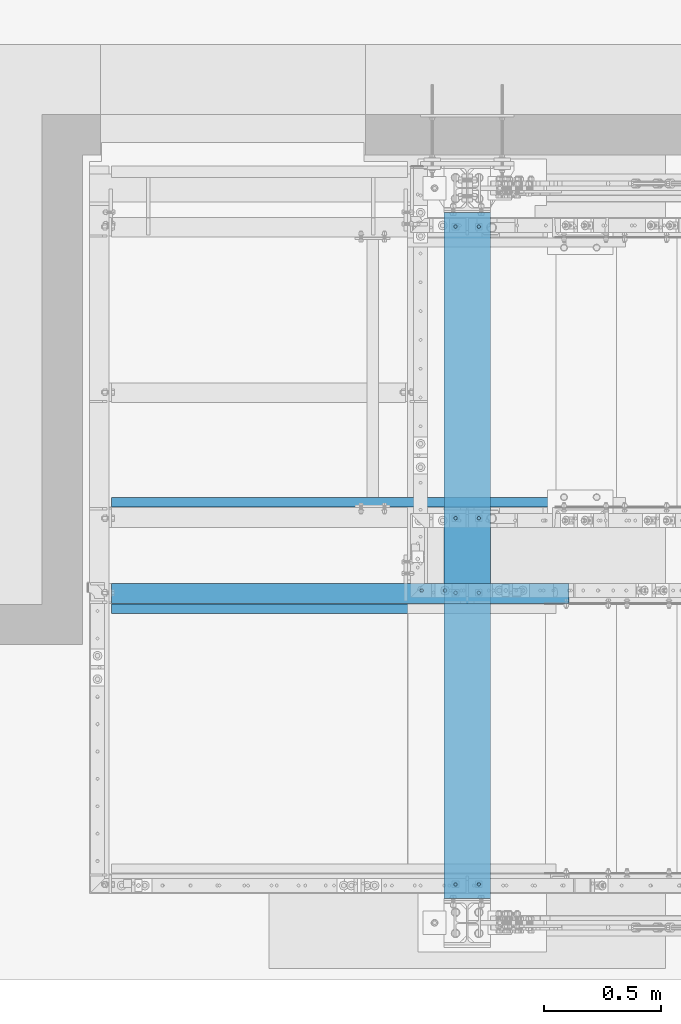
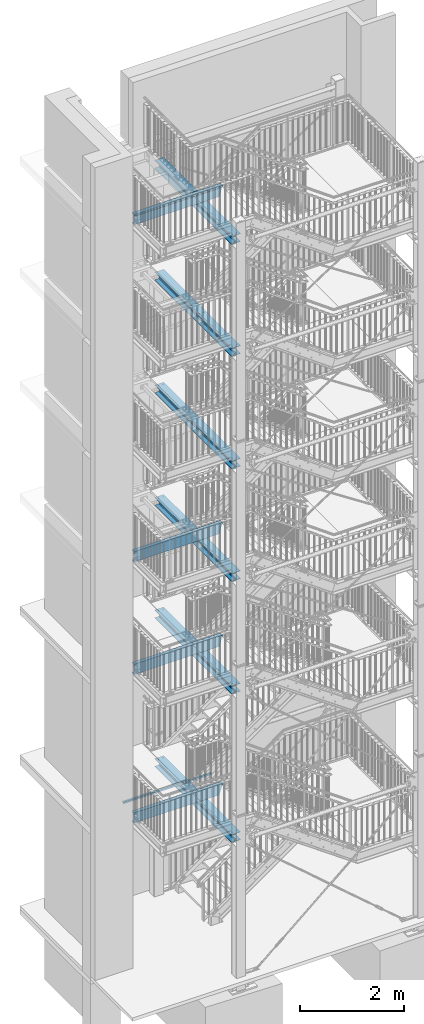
# One storey, part 116 of 825: 12 beams, 60 openings.
"""IFC2X3 building model written with IfcOpenShell, lengths in millimetres."""

import ifcopenshell
import ifcopenshell.guid

model = None  # the IFC model being written
_history = None  # IfcOwnerHistory: only IFC2X3 demands one
_inside = {}  # id of a spatial element -> (the spatial element, [elements in it])
_under = {}  # id of a project, library or spatial element -> (it, [spatial elements below it])
_declared = {}  # id of a project -> (the project, [libraries it declares])
_typed = {}  # id of a type object -> (the type object, [elements of that type])
_made_of = {}  # id of a material, layer set ... -> (it, [elements and type objects made of it])


def new_model(schema):
    """Start an empty IFC model of exactly this schema.

    Asked for "IFC4X3", IfcOpenShell would pick the latest addendum, in which some entities
    have other attributes; the version numbers below select the first issue.
    IFC2X3 requires an IfcOwnerHistory on every rooted entity: one is made here for all.
    """
    global model, _history
    if schema == "IFC4X3":
        model = ifcopenshell.file(schema_version=(4, 3, 0, 0))
    else:
        model = ifcopenshell.file(schema=schema)
    _inside.clear()
    _under.clear()
    _declared.clear()
    _typed.clear()
    _made_of.clear()
    _history = None
    if model.schema == "IFC2X3":
        org = make("IfcOrganization", Name="unknown")
        user = make(
            "IfcPersonAndOrganization",
            ThePerson=make("IfcPerson", FamilyName="unknown"),
            TheOrganization=org,
        )
        app = make(
            "IfcApplication",
            ApplicationDeveloper=org,
            Version="unknown",
            ApplicationFullName="unknown",
            ApplicationIdentifier="unknown",
        )
        _history = make(
            "IfcOwnerHistory",
            OwningUser=user,
            OwningApplication=app,
            ChangeAction="ADDED",
            CreationDate=0,
        )
    return model


def make(cls, **values):
    """One entity of the class cls with the attributes given. An attribute that is None is left unset."""
    return model.create_entity(
        cls, **{name: value for name, value in values.items() if value is not None}
    )


def entity(cls, *values):
    """Any entity or typed value of the class cls, its attributes in the order of the schema. None: left unset."""
    e = model.create_entity(cls)
    for i, value in enumerate(values):
        if value is not None:
            e[i] = value
    return e


def rooted(cls, **values):
    """An entity with a GlobalId (a new one), such as an element, a storey or a relation."""
    return make(cls, GlobalId=ifcopenshell.guid.new(), OwnerHistory=_history, **values)


def si_unit(unit_type, name, prefix=None):
    """IfcSIUnit, for example si_unit("LENGTHUNIT", "METRE", prefix="MILLI")."""
    return make("IfcSIUnit", UnitType=unit_type, Prefix=prefix, Name=name)


def converted_unit(unit_type, name, factor, base, dimensions=None, offset=None):
    """IfcConversionBasedUnit, such as the inch: factor (a typed value) times the base unit."""
    return make(
        "IfcConversionBasedUnit"
        if offset is None
        else "IfcConversionBasedUnitWithOffset",
        ConversionOffset=offset,
        Dimensions=None
        if dimensions is None
        else entity("IfcDimensionalExponents", *dimensions),
        UnitType=unit_type,
        Name=name,
        ConversionFactor=make(
            "IfcMeasureWithUnit", ValueComponent=factor, UnitComponent=base
        ),
    )


def assignment(units):
    """IfcUnitAssignment: the units of a project."""
    return None if units is None else make("IfcUnitAssignment", Units=units)


def point(xyz):
    """IfcCartesianPoint."""
    return None if xyz is None else make("IfcCartesianPoint", Coordinates=xyz)


def direction(xyz):
    """IfcDirection."""
    return None if xyz is None else make("IfcDirection", DirectionRatios=xyz)


def frame(location, z_axis=None, x_axis=None):
    """IfcAxis2Placement3D, a coordinate frame: its origin and axes. An axis left out is left unset."""
    return make(
        "IfcAxis2Placement3D",
        Location=point(location),
        Axis=direction(z_axis),
        RefDirection=direction(x_axis),
    )


def frame_2d(location, x_axis=None):
    """IfcAxis2Placement2D, a coordinate frame in the plane: its origin and x axis."""
    return make(
        "IfcAxis2Placement2D", Location=point(location), RefDirection=direction(x_axis)
    )


def origin():
    """The frame at (0, 0, 0) with its axes left unset."""
    return frame((0.0, 0.0, 0.0))


def origin_with_axes():
    """The frame at (0, 0, 0) with the z axis (0, 0, 1) and the x axis (1, 0, 0) written out."""
    return frame((0.0, 0.0, 0.0), z_axis=(0.0, 0.0, 1.0), x_axis=(1.0, 0.0, 0.0))


def origin_2d():
    """The frame at (0, 0) in the plane with its x axis left unset."""
    return frame_2d((0.0, 0.0))


def origin_2d_with_axis():
    """The frame at (0, 0) in the plane with the x axis (1, 0) written out."""
    return frame_2d((0.0, 0.0), x_axis=(1.0, 0.0))


def place(relative_to, where):
    """IfcLocalPlacement: puts the frame where relative to a parent placement (None: the world)."""
    return make(
        "IfcLocalPlacement", PlacementRelTo=relative_to, RelativePlacement=where
    )


def context(
    kind, dimensions, precision=None, world=None, true_north=None, identifier=None
):
    """IfcGeometricRepresentationContext, for example the 3D "Model" context."""
    return make(
        "IfcGeometricRepresentationContext",
        ContextIdentifier=identifier,
        ContextType=kind,
        CoordinateSpaceDimension=dimensions,
        Precision=precision,
        WorldCoordinateSystem=world,
        TrueNorth=true_north,
    )


def project(units=None, contexts=None):
    """IfcProject with its units and contexts."""
    return rooted(
        "IfcProject",
        Name="project",
        RepresentationContexts=contexts,
        UnitsInContext=assignment(units),
    )


def spatial(cls, under=None, at=None, **own):
    """A site, building, storey or space (cls), placed at a placement, below another one or the project."""
    s = rooted(cls, ObjectPlacement=at, **own)
    if under is not None:
        _under.setdefault(under.id(), (under, []))[1].append(s)
    return s


def profile(cls, at=None, kind="AREA", **sizes):
    """A parametric profile (cls). Its sizes go by their IFC names, for example OverallWidth=200.0."""
    return make(cls, ProfileType=kind, Position=at, **sizes)


def circle(**sizes):
    """IfcCircleProfileDef."""
    return profile("IfcCircleProfileDef", **sizes)


def i_section(**sizes):
    """IfcIShapeProfileDef."""
    return profile("IfcIShapeProfileDef", **sizes)


def l_section(**sizes):
    """IfcLShapeProfileDef."""
    return profile("IfcLShapeProfileDef", **sizes)


def u_section(**sizes):
    """IfcUShapeProfileDef."""
    return profile("IfcUShapeProfileDef", **sizes)


def extrude(swept, where, along, depth):
    """IfcExtrudedAreaSolid: the profile swept, set in the frame where, extruded along a direction by depth."""
    return make(
        "IfcExtrudedAreaSolid",
        SweptArea=swept,
        Position=where,
        ExtrudedDirection=direction(along),
        Depth=depth,
    )


def clip(a, b, op="DIFFERENCE"):
    """IfcBooleanClippingResult: the solid a cut by the half space b."""
    return make(
        "IfcBooleanClippingResult", Operator=op, FirstOperand=a, SecondOperand=b
    )


def halfspace(plane, agree):
    """IfcHalfSpaceSolid: all space on one side of the plane z = 0 of the frame plane."""
    return make(
        "IfcHalfSpaceSolid",
        BaseSurface=make("IfcPlane", Position=plane),
        AgreementFlag=agree,
    )


def shape(context_of_items, identifier, shape_type, items):
    """IfcShapeRepresentation: the items that make up one representation, for example the "Body"."""
    return make(
        "IfcShapeRepresentation",
        ContextOfItems=context_of_items,
        RepresentationIdentifier=identifier,
        RepresentationType=shape_type,
        Items=items,
    )


def material(Name=None, Category=None):
    """IfcMaterial."""
    return make("IfcMaterial", Name=Name, Category=Category)


def made_of(thing, what):
    """Note that an element or type object is made of a material, layer set ...; save() writes the relation."""
    if what is not None:
        _made_of.setdefault(what.id(), (what, []))[1].append(thing)
    return thing


def element(
    cls,
    number,
    at=None,
    inside=None,
    cuts=None,
    type_object=None,
    material=None,
    context=None,
    identifier="Body",
    shape_type=None,
    held_by="IfcProductDefinitionShape",
    body=None,
    shapes=None,
    **own,
):
    """One element of the class cls, such as IfcWall. Its Tag is "e" and its number.

    at: its placement. inside: the storey or other place that contains it. cuts: it is an
    opening in that element (IfcRelVoidsElement). A single representation is given by context,
    identifier, shape_type and body (its items); several are given by shapes. held_by: the class
    of the entity that holds the representations. save() writes the other relations.
    """
    e = rooted(cls, Tag="e%d" % number, ObjectPlacement=at, **own)
    if body is not None:
        shapes = [shape(context, identifier, shape_type, body)]
    if shapes is not None:
        e.Representation = make(held_by, Representations=shapes)
    if inside is not None:
        _inside.setdefault(inside.id(), (inside, []))[1].append(e)
    if cuts is not None:
        rooted(
            "IfcRelVoidsElement", RelatingBuildingElement=cuts, RelatedOpeningElement=e
        )
    if type_object is not None:
        _typed.setdefault(type_object.id(), (type_object, []))[1].append(e)
    return made_of(e, material)


def aggregate(whole, parts):
    """IfcRelAggregates: a whole, such as a stair, and the parts it consists of."""
    return rooted("IfcRelAggregates", RelatingObject=whole, RelatedObjects=parts)


def save(model, path):
    """Write the relations noted so far, then the file.

    IfcRelAggregates (storeys below a building ...), IfcRelContainedInSpatialStructure (elements
    in a storey), IfcRelDefinesByType, IfcRelAssociatesMaterial and IfcRelDeclares: one each for
    every whole, place, type object, material and project.
    """
    for whole, parts in _under.values():
        aggregate(whole, parts)
    for where, things in _inside.values():
        rooted(
            "IfcRelContainedInSpatialStructure",
            RelatedElements=things,
            RelatingStructure=where,
        )
    for kind, things in _typed.values():
        rooted("IfcRelDefinesByType", RelatedObjects=things, RelatingType=kind)
    for what, things in _made_of.values():
        rooted("IfcRelAssociatesMaterial", RelatedObjects=things, RelatingMaterial=what)
    for by, libraries in _declared.values():
        rooted("IfcRelDeclares", RelatingContext=by, RelatedDefinitions=libraries)
    model.write(path)


model = new_model("IFC2X3")

# Units and contexts
model_context = context("Model", 3, precision=1e-09, world=origin_with_axes())
ifc_project = project(units=[si_unit("LENGTHUNIT", "METRE", prefix="MILLI"), si_unit("AREAUNIT", "SQUARE_METRE"), si_unit("VOLUMEUNIT", "CUBIC_METRE"), converted_unit("PLANEANGLEUNIT", "DEGREE", entity("IfcPlaneAngleMeasure", 0.01745329), si_unit("PLANEANGLEUNIT", "RADIAN"), dimensions=[0, 0, 0, 0, 0, 0, 0])], contexts=[model_context])

# Site, building, storey
site_placement = place(None, origin_with_axes())
site = spatial("IfcSite", under=ifc_project, at=site_placement, Name="Cnopf'sche Kinderklinik", CompositionType="ELEMENT")
building_placement = place(site_placement, origin_with_axes())
building = spatial("IfcBuilding", under=site, at=building_placement, Name="Struktur 1", CompositionType="ELEMENT")
storey_placement = place(building_placement, origin_with_axes())
storey = spatial("IfcBuildingStorey", under=building, at=storey_placement, Name="Default Storey", CompositionType="ELEMENT", Elevation=0.0)

# Beam, openings
ifc_material = material(Name="S235JR")
beam_1_placement = place(None, frame((5552.129694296, 5759.036971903, 17713.999999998), z_axis=(1.0, 0.0, 0.0), x_axis=(0.0, 1.0, 0.0)))
beam_1 = element("IfcBeam", 1, at=beam_1_placement, inside=storey, material=ifc_material, Name="Stringer", ObjectType="Stringer", context=model_context, shape_type="Clipping", body=[
    clip(clip(extrude(u_section(Depth=240.0, FlangeWidth=85.0, WebThickness=9.5, FlangeThickness=13.0, FilletRadius=13.0, EdgeRadius=6.5, FlangeSlope=4.574, at=frame_2d((20.2, 0.0))), origin(), (0.0, 0.0, -1.0), 2477.720061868), halfspace(frame((-5759.036971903, -17713.999999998, -2220.415291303), z_axis=(0.0, 0.0, 1.0), x_axis=(1.0, 0.0, 0.0)), True)), halfspace(frame((-5759.036971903, -17580.048532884, -5967.525639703), z_axis=(0.0, 0.306904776, -0.951740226), x_axis=(-1.0, 0.0, 0.0)), True)),
])
opening_1_placement = place(beam_1_placement, frame((32.7, 120.5, -550.914791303), z_axis=(0.0, 1.0, 0.0), x_axis=(-1.0, 0.0, 0.0)))
element("IfcOpeningElement", 2, at=opening_1_placement, cuts=beam_1, ObjectType="Opening", context=model_context, shape_type="SweptSolid", body=[
    extrude(circle(Radius=7.001, at=frame_2d((0.0, -7.001), x_axis=(1.0, 0.0))), origin(), (0.0, 0.0, -1.0), 14.0),
])
opening_2_placement = place(beam_1_placement, frame((32.7, 120.5, -450.914791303), z_axis=(0.0, 1.0, 0.0), x_axis=(-1.0, 0.0, 0.0)))
element("IfcOpeningElement", 3, at=opening_2_placement, cuts=beam_1, ObjectType="Opening", context=model_context, shape_type="SweptSolid", body=[
    extrude(circle(Radius=7.001, at=frame_2d((0.0, -7.001), x_axis=(1.0, 0.0))), origin(), (0.0, 0.0, -1.0), 14.0),
])
opening_3_placement = place(beam_1_placement, frame((15.699, -120.5, -745.416291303), z_axis=(0.0, -1.0, 0.0), x_axis=(1.0, 0.0, 0.0)))
element("IfcOpeningElement", 4, at=opening_3_placement, cuts=beam_1, ObjectType="Opening", context=model_context, shape_type="SweptSolid", body=[
    extrude(circle(Radius=7.001, at=frame_2d((7.001, 0.0), x_axis=(1.0, 0.0))), origin(), (0.0, 0.0, -1.0), 14.0),
])
opening_4_placement = place(beam_1_placement, frame((15.699, -120.5, -645.416291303), z_axis=(0.0, -1.0, 0.0), x_axis=(1.0, 0.0, 0.0)))
element("IfcOpeningElement", 5, at=opening_4_placement, cuts=beam_1, ObjectType="Opening", context=model_context, shape_type="SweptSolid", body=[
    extrude(circle(Radius=7.001, at=frame_2d((7.001, 0.0), x_axis=(1.0, 0.0))), origin(), (0.0, 0.0, -1.0), 14.0),
])

# Beam
beam_2_placement = place(None, frame((3331.713402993, 5722.536971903, 17822.799999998), z_axis=(-1.0, 0.0, 0.0), x_axis=(0.0, 0.0, -1.0)))
element("IfcBeam", 6, at=beam_2_placement, inside=storey, material=ifc_material, Name="TopLanding#3", ObjectType="TopLanding#3", context=model_context, shape_type="SweptSolid", body=[
    extrude(l_section(Depth=40.0, Width=40.0, Thickness=4.0, FilletRadius=6.0, EdgeRadius=3.0, at=frame_2d((8.8, 8.8))), origin(), (0.0, 0.0, -1.0), 1905.0),
])

# Beam, openings
beam_3_placement = place(None, frame((4856.713402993, 7559.668114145, 14879.0), z_axis=(0.0, -1.0, 0.0), x_axis=(-1.0, 0.0, 0.0)))
beam_3 = element("IfcBeam", 7, at=beam_3_placement, inside=storey, material=ifc_material, Name="Girder", ObjectType="Girder", context=model_context, shape_type="Clipping", body=[
    clip(clip(extrude(i_section(OverallWidth=200.0, OverallDepth=190.0, WebThickness=6.5, FlangeThickness=10.0, FilletRadius=18.0, at=origin_2d()), origin(), (0.0, 0.0, 1.0), 3235.862284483), halfspace(frame((4856.713402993, 14879.0, 3087.930142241), z_axis=(0.0, 0.0, -1.0), x_axis=(1.0, 0.0, 0.0)), True)), halfspace(frame((4856.713402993, 14879.0, 147.932142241), z_axis=(0.0, 0.0, 1.0), x_axis=(-1.0, 0.0, 0.0)), True)),
])
opening_5_placement = place(beam_3_placement, frame((-50.0, -84.5, 1784.932142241), z_axis=(0.0, 1.0, 0.0), x_axis=(-1.0, 0.0, 0.0)))
element("IfcOpeningElement", 8, at=opening_5_placement, cuts=beam_3, ObjectType="Opening", context=model_context, shape_type="SweptSolid", body=[
    extrude(circle(Radius=7.001, at=frame_2d((0.0, -7.001), x_axis=(1.0, 0.0))), origin(), (0.0, 0.0, -1.0), 11.0),
])
opening_6_placement = place(beam_3_placement, frame((50.0, -84.5, 207.931142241), z_axis=(0.0, -1.0, 0.0), x_axis=(0.0, 0.0, -1.0)))
element("IfcOpeningElement", 9, at=opening_6_placement, cuts=beam_3, ObjectType="Opening", context=model_context, shape_type="SweptSolid", body=[
    extrude(circle(Radius=7.001, at=origin_2d_with_axis()), origin(), (0.0, 0.0, 1.0), 11.0),
])
opening_7_placement = place(beam_3_placement, frame((-50.0, -84.5, 1457.931142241), z_axis=(0.0, -1.0, 0.0), x_axis=(0.0, 0.0, -1.0)))
element("IfcOpeningElement", 10, at=opening_7_placement, cuts=beam_3, ObjectType="Opening", context=model_context, shape_type="SweptSolid", body=[
    extrude(circle(Radius=7.001, at=origin_2d_with_axis()), origin(), (0.0, 0.0, 1.0), 11.0),
])
opening_8_placement = place(beam_3_placement, frame((50.0, -84.5, 3034.932142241), z_axis=(0.0, 1.0, 0.0), x_axis=(-1.0, 0.0, 0.0)))
element("IfcOpeningElement", 11, at=opening_8_placement, cuts=beam_3, ObjectType="Opening", context=model_context, shape_type="SweptSolid", body=[
    extrude(circle(Radius=7.001, at=frame_2d((0.0, -7.001), x_axis=(1.0, 0.0))), origin(), (0.0, 0.0, -1.0), 11.0),
])
opening_9_placement = place(beam_3_placement, frame((-50.0, -84.5, 207.931142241), z_axis=(0.0, -1.0, 0.0), x_axis=(0.0, 0.0, -1.0)))
element("IfcOpeningElement", 12, at=opening_9_placement, cuts=beam_3, ObjectType="Opening", context=model_context, shape_type="SweptSolid", body=[
    extrude(circle(Radius=7.001, at=origin_2d_with_axis()), origin(), (0.0, 0.0, 1.0), 11.0),
])
opening_10_placement = place(beam_3_placement, frame((50.0, -84.5, 1457.931142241), z_axis=(0.0, -1.0, 0.0), x_axis=(0.0, 0.0, -1.0)))
element("IfcOpeningElement", 13, at=opening_10_placement, cuts=beam_3, ObjectType="Opening", context=model_context, shape_type="SweptSolid", body=[
    extrude(circle(Radius=7.001, at=origin_2d_with_axis()), origin(), (0.0, 0.0, 1.0), 11.0),
])
opening_11_placement = place(beam_3_placement, frame((-50.0, -84.5, 3034.932142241), z_axis=(0.0, 1.0, 0.0), x_axis=(-1.0, 0.0, 0.0)))
element("IfcOpeningElement", 14, at=opening_11_placement, cuts=beam_3, ObjectType="Opening", context=model_context, shape_type="SweptSolid", body=[
    extrude(circle(Radius=7.001, at=frame_2d((0.0, -7.001), x_axis=(1.0, 0.0))), origin(), (0.0, 0.0, -1.0), 11.0),
])
opening_12_placement = place(beam_3_placement, frame((50.0, -84.5, 1784.932142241), z_axis=(0.0, 1.0, 0.0), x_axis=(-1.0, 0.0, 0.0)))
element("IfcOpeningElement", 15, at=opening_12_placement, cuts=beam_3, ObjectType="Opening", context=model_context, shape_type="SweptSolid", body=[
    extrude(circle(Radius=7.001, at=frame_2d((0.0, -7.001), x_axis=(1.0, 0.0))), origin(), (0.0, 0.0, -1.0), 11.0),
])

beam_4_placement = place(None, frame((4856.713402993, 7559.668114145, 12244.0), z_axis=(0.0, -1.0, 0.0), x_axis=(-1.0, 0.0, 0.0)))
beam_4 = element("IfcBeam", 16, at=beam_4_placement, inside=storey, material=ifc_material, Name="Girder", ObjectType="Girder", context=model_context, shape_type="Clipping", body=[
    clip(clip(extrude(i_section(OverallWidth=200.0, OverallDepth=190.0, WebThickness=6.5, FlangeThickness=10.0, FilletRadius=18.0, at=origin_2d()), origin(), (0.0, 0.0, 1.0), 3235.862284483), halfspace(frame((4856.713402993, 12244.0, 3087.930142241), z_axis=(0.0, 0.0, -1.0), x_axis=(1.0, 0.0, 0.0)), True)), halfspace(frame((4856.713402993, 12244.0, 147.932142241), z_axis=(0.0, 0.0, 1.0), x_axis=(-1.0, 0.0, 0.0)), True)),
])
opening_13_placement = place(beam_4_placement, frame((-50.0, -84.5, 1784.932142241), z_axis=(0.0, 1.0, 0.0), x_axis=(-1.0, 0.0, 0.0)))
element("IfcOpeningElement", 17, at=opening_13_placement, cuts=beam_4, ObjectType="Opening", context=model_context, shape_type="SweptSolid", body=[
    extrude(circle(Radius=7.001, at=frame_2d((0.0, -7.001), x_axis=(1.0, 0.0))), origin(), (0.0, 0.0, -1.0), 11.0),
])
opening_14_placement = place(beam_4_placement, frame((50.0, -84.5, 207.931142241), z_axis=(0.0, -1.0, 0.0), x_axis=(0.0, 0.0, -1.0)))
element("IfcOpeningElement", 18, at=opening_14_placement, cuts=beam_4, ObjectType="Opening", context=model_context, shape_type="SweptSolid", body=[
    extrude(circle(Radius=7.001, at=origin_2d_with_axis()), origin(), (0.0, 0.0, 1.0), 11.0),
])
opening_15_placement = place(beam_4_placement, frame((-50.0, -84.5, 207.931142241), z_axis=(0.0, -1.0, 0.0), x_axis=(0.0, 0.0, -1.0)))
element("IfcOpeningElement", 19, at=opening_15_placement, cuts=beam_4, ObjectType="Opening", context=model_context, shape_type="SweptSolid", body=[
    extrude(circle(Radius=7.001, at=origin_2d_with_axis()), origin(), (0.0, 0.0, 1.0), 11.0),
])
opening_16_placement = place(beam_4_placement, frame((-50.0, -84.5, 1457.931142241), z_axis=(0.0, -1.0, 0.0), x_axis=(0.0, 0.0, -1.0)))
element("IfcOpeningElement", 20, at=opening_16_placement, cuts=beam_4, ObjectType="Opening", context=model_context, shape_type="SweptSolid", body=[
    extrude(circle(Radius=7.001, at=origin_2d_with_axis()), origin(), (0.0, 0.0, 1.0), 11.0),
])
opening_17_placement = place(beam_4_placement, frame((50.0, -84.5, 3034.932142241), z_axis=(0.0, 1.0, 0.0), x_axis=(-1.0, 0.0, 0.0)))
element("IfcOpeningElement", 21, at=opening_17_placement, cuts=beam_4, ObjectType="Opening", context=model_context, shape_type="SweptSolid", body=[
    extrude(circle(Radius=7.001, at=frame_2d((0.0, -7.001), x_axis=(1.0, 0.0))), origin(), (0.0, 0.0, -1.0), 11.0),
])
opening_18_placement = place(beam_4_placement, frame((50.0, -84.5, 1784.932142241), z_axis=(0.0, 1.0, 0.0), x_axis=(-1.0, 0.0, 0.0)))
element("IfcOpeningElement", 22, at=opening_18_placement, cuts=beam_4, ObjectType="Opening", context=model_context, shape_type="SweptSolid", body=[
    extrude(circle(Radius=7.001, at=frame_2d((0.0, -7.001), x_axis=(1.0, 0.0))), origin(), (0.0, 0.0, -1.0), 11.0),
])
opening_19_placement = place(beam_4_placement, frame((-50.0, -84.5, 3034.932142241), z_axis=(0.0, 1.0, 0.0), x_axis=(-1.0, 0.0, 0.0)))
element("IfcOpeningElement", 23, at=opening_19_placement, cuts=beam_4, ObjectType="Opening", context=model_context, shape_type="SweptSolid", body=[
    extrude(circle(Radius=7.001, at=frame_2d((0.0, -7.001), x_axis=(1.0, 0.0))), origin(), (0.0, 0.0, -1.0), 11.0),
])
opening_20_placement = place(beam_4_placement, frame((50.0, -84.5, 1457.931142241), z_axis=(0.0, -1.0, 0.0), x_axis=(0.0, 0.0, -1.0)))
element("IfcOpeningElement", 24, at=opening_20_placement, cuts=beam_4, ObjectType="Opening", context=model_context, shape_type="SweptSolid", body=[
    extrude(circle(Radius=7.001, at=origin_2d_with_axis()), origin(), (0.0, 0.0, 1.0), 11.0),
])

beam_5_placement = place(None, frame((4856.713402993, 7559.668114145, 9617.0), z_axis=(0.0, -1.0, 0.0), x_axis=(-1.0, 0.0, 0.0)))
beam_5 = element("IfcBeam", 25, at=beam_5_placement, inside=storey, material=ifc_material, Name="Girder", ObjectType="Girder", context=model_context, shape_type="Clipping", body=[
    clip(clip(extrude(i_section(OverallWidth=200.0, OverallDepth=190.0, WebThickness=6.5, FlangeThickness=10.0, FilletRadius=18.0, at=origin_2d()), origin(), (0.0, 0.0, 1.0), 3235.862284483), halfspace(frame((4856.713402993, 9617.0, 3087.930142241), z_axis=(0.0, 0.0, -1.0), x_axis=(1.0, 0.0, 0.0)), True)), halfspace(frame((4856.713402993, 9617.0, 147.932142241), z_axis=(0.0, 0.0, 1.0), x_axis=(-1.0, 0.0, 0.0)), True)),
])
opening_21_placement = place(beam_5_placement, frame((-50.0, -84.5, 1784.932142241), z_axis=(0.0, 1.0, 0.0), x_axis=(-1.0, 0.0, 0.0)))
element("IfcOpeningElement", 26, at=opening_21_placement, cuts=beam_5, ObjectType="Opening", context=model_context, shape_type="SweptSolid", body=[
    extrude(circle(Radius=7.001, at=frame_2d((0.0, -7.001), x_axis=(1.0, 0.0))), origin(), (0.0, 0.0, -1.0), 11.0),
])
opening_22_placement = place(beam_5_placement, frame((50.0, -84.5, 1457.931142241), z_axis=(0.0, -1.0, 0.0), x_axis=(0.0, 0.0, -1.0)))
element("IfcOpeningElement", 27, at=opening_22_placement, cuts=beam_5, ObjectType="Opening", context=model_context, shape_type="SweptSolid", body=[
    extrude(circle(Radius=7.001, at=origin_2d_with_axis()), origin(), (0.0, 0.0, 1.0), 11.0),
])
opening_23_placement = place(beam_5_placement, frame((-50.0, -84.5, 1457.931142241), z_axis=(0.0, -1.0, 0.0), x_axis=(0.0, 0.0, -1.0)))
element("IfcOpeningElement", 28, at=opening_23_placement, cuts=beam_5, ObjectType="Opening", context=model_context, shape_type="SweptSolid", body=[
    extrude(circle(Radius=7.001, at=origin_2d_with_axis()), origin(), (0.0, 0.0, 1.0), 11.0),
])
opening_24_placement = place(beam_5_placement, frame((50.0, -84.5, 207.931142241), z_axis=(0.0, -1.0, 0.0), x_axis=(0.0, 0.0, -1.0)))
element("IfcOpeningElement", 29, at=opening_24_placement, cuts=beam_5, ObjectType="Opening", context=model_context, shape_type="SweptSolid", body=[
    extrude(circle(Radius=7.001, at=origin_2d_with_axis()), origin(), (0.0, 0.0, 1.0), 11.0),
])
opening_25_placement = place(beam_5_placement, frame((50.0, -84.5, 3034.932142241), z_axis=(0.0, 1.0, 0.0), x_axis=(-1.0, 0.0, 0.0)))
element("IfcOpeningElement", 30, at=opening_25_placement, cuts=beam_5, ObjectType="Opening", context=model_context, shape_type="SweptSolid", body=[
    extrude(circle(Radius=7.001, at=frame_2d((0.0, -7.001), x_axis=(1.0, 0.0))), origin(), (0.0, 0.0, -1.0), 11.0),
])
opening_26_placement = place(beam_5_placement, frame((-50.0, -84.5, 3034.932142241), z_axis=(0.0, 1.0, 0.0), x_axis=(-1.0, 0.0, 0.0)))
element("IfcOpeningElement", 31, at=opening_26_placement, cuts=beam_5, ObjectType="Opening", context=model_context, shape_type="SweptSolid", body=[
    extrude(circle(Radius=7.001, at=frame_2d((0.0, -7.001), x_axis=(1.0, 0.0))), origin(), (0.0, 0.0, -1.0), 11.0),
])
opening_27_placement = place(beam_5_placement, frame((-50.0, -84.5, 207.931142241), z_axis=(0.0, -1.0, 0.0), x_axis=(0.0, 0.0, -1.0)))
element("IfcOpeningElement", 32, at=opening_27_placement, cuts=beam_5, ObjectType="Opening", context=model_context, shape_type="SweptSolid", body=[
    extrude(circle(Radius=7.001, at=origin_2d_with_axis()), origin(), (0.0, 0.0, 1.0), 11.0),
])
opening_28_placement = place(beam_5_placement, frame((50.0, -84.5, 1784.932142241), z_axis=(0.0, 1.0, 0.0), x_axis=(-1.0, 0.0, 0.0)))
element("IfcOpeningElement", 33, at=opening_28_placement, cuts=beam_5, ObjectType="Opening", context=model_context, shape_type="SweptSolid", body=[
    extrude(circle(Radius=7.001, at=frame_2d((0.0, -7.001), x_axis=(1.0, 0.0))), origin(), (0.0, 0.0, -1.0), 11.0),
])

beam_6_placement = place(None, frame((4856.713402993, 7559.668114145, 6985.0), z_axis=(0.0, -1.0, 0.0), x_axis=(-1.0, 0.0, 0.0)))
beam_6 = element("IfcBeam", 34, at=beam_6_placement, inside=storey, material=ifc_material, Name="Girder", ObjectType="Girder", context=model_context, shape_type="Clipping", body=[
    clip(clip(extrude(i_section(OverallWidth=200.0, OverallDepth=190.0, WebThickness=6.5, FlangeThickness=10.0, FilletRadius=18.0, at=origin_2d()), origin(), (0.0, 0.0, 1.0), 3235.862284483), halfspace(frame((4856.713402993, 6985.0, 147.932142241), z_axis=(0.0, 0.0, 1.0), x_axis=(-1.0, 0.0, 0.0)), True)), halfspace(frame((4856.713402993, 6985.0, 3087.930142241), z_axis=(0.0, 0.0, -1.0), x_axis=(1.0, 0.0, 0.0)), True)),
])
opening_29_placement = place(beam_6_placement, frame((50.0, -84.5, 1784.932142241), z_axis=(0.0, 1.0, 0.0), x_axis=(-1.0, 0.0, 0.0)))
element("IfcOpeningElement", 35, at=opening_29_placement, cuts=beam_6, ObjectType="Opening", context=model_context, shape_type="SweptSolid", body=[
    extrude(circle(Radius=7.001, at=frame_2d((0.0, -7.001), x_axis=(1.0, 0.0))), origin(), (0.0, 0.0, -1.0), 11.0),
])
opening_30_placement = place(beam_6_placement, frame((50.0, -84.5, 1457.931142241), z_axis=(0.0, -1.0, 0.0), x_axis=(0.0, 0.0, -1.0)))
element("IfcOpeningElement", 36, at=opening_30_placement, cuts=beam_6, ObjectType="Opening", context=model_context, shape_type="SweptSolid", body=[
    extrude(circle(Radius=7.001, at=origin_2d_with_axis()), origin(), (0.0, 0.0, 1.0), 11.0),
])
opening_31_placement = place(beam_6_placement, frame((-50.0, -84.5, 1784.932142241), z_axis=(0.0, 1.0, 0.0), x_axis=(-1.0, 0.0, 0.0)))
element("IfcOpeningElement", 37, at=opening_31_placement, cuts=beam_6, ObjectType="Opening", context=model_context, shape_type="SweptSolid", body=[
    extrude(circle(Radius=7.001, at=frame_2d((0.0, -7.001), x_axis=(1.0, 0.0))), origin(), (0.0, 0.0, -1.0), 11.0),
])
opening_32_placement = place(beam_6_placement, frame((-50.0, -84.5, 1457.931142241), z_axis=(0.0, -1.0, 0.0), x_axis=(0.0, 0.0, -1.0)))
element("IfcOpeningElement", 38, at=opening_32_placement, cuts=beam_6, ObjectType="Opening", context=model_context, shape_type="SweptSolid", body=[
    extrude(circle(Radius=7.001, at=origin_2d_with_axis()), origin(), (0.0, 0.0, 1.0), 11.0),
])
opening_33_placement = place(beam_6_placement, frame((50.0, -84.5, 3034.932142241), z_axis=(0.0, 1.0, 0.0), x_axis=(-1.0, 0.0, 0.0)))
element("IfcOpeningElement", 39, at=opening_33_placement, cuts=beam_6, ObjectType="Opening", context=model_context, shape_type="SweptSolid", body=[
    extrude(circle(Radius=7.001, at=frame_2d((0.0, -7.001), x_axis=(1.0, 0.0))), origin(), (0.0, 0.0, -1.0), 11.0),
])
opening_34_placement = place(beam_6_placement, frame((-50.0, -84.5, 3034.932142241), z_axis=(0.0, 1.0, 0.0), x_axis=(-1.0, 0.0, 0.0)))
element("IfcOpeningElement", 40, at=opening_34_placement, cuts=beam_6, ObjectType="Opening", context=model_context, shape_type="SweptSolid", body=[
    extrude(circle(Radius=7.001, at=frame_2d((0.0, -7.001), x_axis=(1.0, 0.0))), origin(), (0.0, 0.0, -1.0), 11.0),
])
opening_35_placement = place(beam_6_placement, frame((50.0, -84.5, 207.931142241), z_axis=(0.0, -1.0, 0.0), x_axis=(0.0, 0.0, -1.0)))
element("IfcOpeningElement", 41, at=opening_35_placement, cuts=beam_6, ObjectType="Opening", context=model_context, shape_type="SweptSolid", body=[
    extrude(circle(Radius=7.001, at=origin_2d_with_axis()), origin(), (0.0, 0.0, 1.0), 11.0),
])
opening_36_placement = place(beam_6_placement, frame((-50.0, -84.5, 207.931142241), z_axis=(0.0, -1.0, 0.0), x_axis=(0.0, 0.0, -1.0)))
element("IfcOpeningElement", 42, at=opening_36_placement, cuts=beam_6, ObjectType="Opening", context=model_context, shape_type="SweptSolid", body=[
    extrude(circle(Radius=7.001, at=origin_2d_with_axis()), origin(), (0.0, 0.0, 1.0), 11.0),
])

beam_7_placement = place(None, frame((4856.713402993, 7559.668114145, 3512.0), z_axis=(0.0, -1.0, 0.0), x_axis=(-1.0, 0.0, 0.0)))
beam_7 = element("IfcBeam", 43, at=beam_7_placement, inside=storey, material=ifc_material, Name="Girder", ObjectType="Girder", context=model_context, shape_type="Clipping", body=[
    clip(clip(extrude(i_section(OverallWidth=200.0, OverallDepth=190.0, WebThickness=6.5, FlangeThickness=10.0, FilletRadius=18.0, at=origin_2d()), origin(), (0.0, 0.0, 1.0), 3235.862284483), halfspace(frame((4856.713402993, 3512.0, 3087.930142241), z_axis=(0.0, 0.0, -1.0), x_axis=(1.0, 0.0, 0.0)), True)), halfspace(frame((4856.713402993, 3512.0, 147.932142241), z_axis=(0.0, 0.0, 1.0), x_axis=(-1.0, 0.0, 0.0)), True)),
])
opening_37_placement = place(beam_7_placement, frame((50.0, -84.5, 1784.932142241), z_axis=(0.0, 1.0, 0.0), x_axis=(-1.0, 0.0, 0.0)))
element("IfcOpeningElement", 44, at=opening_37_placement, cuts=beam_7, ObjectType="Opening", context=model_context, shape_type="SweptSolid", body=[
    extrude(circle(Radius=7.001, at=frame_2d((0.0, -7.001), x_axis=(1.0, 0.0))), origin(), (0.0, 0.0, -1.0), 11.0),
])
opening_38_placement = place(beam_7_placement, frame((-50.0, -84.5, 1457.931142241), z_axis=(0.0, -1.0, 0.0), x_axis=(0.0, 0.0, -1.0)))
element("IfcOpeningElement", 45, at=opening_38_placement, cuts=beam_7, ObjectType="Opening", context=model_context, shape_type="SweptSolid", body=[
    extrude(circle(Radius=7.001, at=origin_2d_with_axis()), origin(), (0.0, 0.0, 1.0), 11.0),
])
opening_39_placement = place(beam_7_placement, frame((50.0, -84.5, 1457.931142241), z_axis=(0.0, -1.0, 0.0), x_axis=(0.0, 0.0, -1.0)))
element("IfcOpeningElement", 46, at=opening_39_placement, cuts=beam_7, ObjectType="Opening", context=model_context, shape_type="SweptSolid", body=[
    extrude(circle(Radius=7.001, at=origin_2d_with_axis()), origin(), (0.0, 0.0, 1.0), 11.0),
])
opening_40_placement = place(beam_7_placement, frame((50.0, -84.5, 207.931142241), z_axis=(0.0, -1.0, 0.0), x_axis=(0.0, 0.0, -1.0)))
element("IfcOpeningElement", 47, at=opening_40_placement, cuts=beam_7, ObjectType="Opening", context=model_context, shape_type="SweptSolid", body=[
    extrude(circle(Radius=7.001, at=origin_2d_with_axis()), origin(), (0.0, 0.0, 1.0), 11.0),
])
opening_41_placement = place(beam_7_placement, frame((50.0, -84.5, 3034.932142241), z_axis=(0.0, 1.0, 0.0), x_axis=(-1.0, 0.0, 0.0)))
element("IfcOpeningElement", 48, at=opening_41_placement, cuts=beam_7, ObjectType="Opening", context=model_context, shape_type="SweptSolid", body=[
    extrude(circle(Radius=7.001, at=frame_2d((0.0, -7.001), x_axis=(1.0, 0.0))), origin(), (0.0, 0.0, -1.0), 11.0),
])
opening_42_placement = place(beam_7_placement, frame((-50.0, -84.5, 3034.932142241), z_axis=(0.0, 1.0, 0.0), x_axis=(-1.0, 0.0, 0.0)))
element("IfcOpeningElement", 49, at=opening_42_placement, cuts=beam_7, ObjectType="Opening", context=model_context, shape_type="SweptSolid", body=[
    extrude(circle(Radius=7.001, at=frame_2d((0.0, -7.001), x_axis=(1.0, 0.0))), origin(), (0.0, 0.0, -1.0), 11.0),
])
opening_43_placement = place(beam_7_placement, frame((-50.0, -84.5, 1784.932142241), z_axis=(0.0, 1.0, 0.0), x_axis=(-1.0, 0.0, 0.0)))
element("IfcOpeningElement", 50, at=opening_43_placement, cuts=beam_7, ObjectType="Opening", context=model_context, shape_type="SweptSolid", body=[
    extrude(circle(Radius=7.001, at=frame_2d((0.0, -7.001), x_axis=(1.0, 0.0))), origin(), (0.0, 0.0, -1.0), 11.0),
])
opening_44_placement = place(beam_7_placement, frame((-50.0, -84.5, 207.931142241), z_axis=(0.0, -1.0, 0.0), x_axis=(0.0, 0.0, -1.0)))
element("IfcOpeningElement", 51, at=opening_44_placement, cuts=beam_7, ObjectType="Opening", context=model_context, shape_type="SweptSolid", body=[
    extrude(circle(Radius=7.001, at=origin_2d_with_axis()), origin(), (0.0, 0.0, 1.0), 11.0),
])

beam_8_placement = place(None, frame((4856.713402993, 7559.668114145, 17498.999999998), z_axis=(0.0, -1.0, 0.0), x_axis=(-1.0, 0.0, 0.0)))
beam_8 = element("IfcBeam", 52, at=beam_8_placement, inside=storey, material=ifc_material, Name="Girder", ObjectType="Girder", context=model_context, shape_type="Clipping", body=[
    clip(clip(extrude(i_section(OverallWidth=200.0, OverallDepth=190.0, WebThickness=6.5, FlangeThickness=10.0, FilletRadius=18.0, at=origin_2d()), origin(), (0.0, 0.0, 1.0), 3235.862284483), halfspace(frame((4856.713402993, 17498.999999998, 3087.930142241), z_axis=(0.0, 0.0, -1.0), x_axis=(1.0, 0.0, 0.0)), True)), halfspace(frame((4856.713402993, 17498.999999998, 147.932142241), z_axis=(0.0, 0.0, 1.0), x_axis=(-1.0, 0.0, 0.0)), True)),
])
opening_45_placement = place(beam_8_placement, frame((-50.0, -84.5, 3034.932142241), z_axis=(0.0, 1.0, 0.0), x_axis=(-1.0, 0.0, 0.0)))
element("IfcOpeningElement", 53, at=opening_45_placement, cuts=beam_8, ObjectType="Opening", context=model_context, shape_type="SweptSolid", body=[
    extrude(circle(Radius=7.001, at=frame_2d((0.0, -7.001), x_axis=(1.0, 0.0))), origin(), (0.0, 0.0, -1.0), 11.0),
])
opening_46_placement = place(beam_8_placement, frame((-50.0, -84.5, 1784.932142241), z_axis=(0.0, 1.0, 0.0), x_axis=(-1.0, 0.0, 0.0)))
element("IfcOpeningElement", 54, at=opening_46_placement, cuts=beam_8, ObjectType="Opening", context=model_context, shape_type="SweptSolid", body=[
    extrude(circle(Radius=7.001, at=frame_2d((0.0, -7.001), x_axis=(1.0, 0.0))), origin(), (0.0, 0.0, -1.0), 11.0),
])
opening_47_placement = place(beam_8_placement, frame((50.0, -84.5, 3034.932142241), z_axis=(0.0, 1.0, 0.0), x_axis=(-1.0, 0.0, 0.0)))
element("IfcOpeningElement", 55, at=opening_47_placement, cuts=beam_8, ObjectType="Opening", context=model_context, shape_type="SweptSolid", body=[
    extrude(circle(Radius=7.001, at=frame_2d((0.0, -7.001), x_axis=(1.0, 0.0))), origin(), (0.0, 0.0, -1.0), 11.0),
])
opening_48_placement = place(beam_8_placement, frame((50.0, -84.5, 1784.932142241), z_axis=(0.0, 1.0, 0.0), x_axis=(-1.0, 0.0, 0.0)))
element("IfcOpeningElement", 56, at=opening_48_placement, cuts=beam_8, ObjectType="Opening", context=model_context, shape_type="SweptSolid", body=[
    extrude(circle(Radius=7.001, at=frame_2d((0.0, -7.001), x_axis=(1.0, 0.0))), origin(), (0.0, 0.0, -1.0), 11.0),
])

beam_9_placement = place(None, frame((5551.967347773, 5759.036971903, 9832.0), z_axis=(1.0, 0.0, 0.0), x_axis=(0.0, 1.0, 0.0)))
beam_9 = element("IfcBeam", 57, at=beam_9_placement, inside=storey, material=ifc_material, Name="Stringer", ObjectType="Stringer", context=model_context, shape_type="Clipping", body=[
    clip(clip(extrude(u_section(Depth=240.0, FlangeWidth=85.0, WebThickness=9.5, FlangeThickness=13.0, FilletRadius=13.0, EdgeRadius=6.5, FlangeSlope=4.574, at=frame_2d((20.2, 0.0))), origin(), (0.0, 0.0, -1.0), 2477.557715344), halfspace(frame((-5759.036971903, -9832.0, -2220.25294478), z_axis=(0.0, 0.0, 1.0), x_axis=(1.0, 0.0, 0.0)), True)), halfspace(frame((-5759.036971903, -10438.724783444, -3677.417308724), z_axis=(0.0, 0.307936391, -0.951406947), x_axis=(-1.0, 0.0, 0.0)), True)),
])
opening_49_placement = place(beam_9_placement, frame((32.7, 120.5, -883.25294478), z_axis=(0.0, 1.0, 0.0), x_axis=(-1.0, 0.0, 0.0)))
element("IfcOpeningElement", 58, at=opening_49_placement, cuts=beam_9, ObjectType="Opening", context=model_context, shape_type="SweptSolid", body=[
    extrude(circle(Radius=7.001, at=frame_2d((0.0, -7.001), x_axis=(1.0, 0.0))), origin(), (0.0, 0.0, -1.0), 14.0),
])
opening_50_placement = place(beam_9_placement, frame((32.7, 120.5, -783.25294478), z_axis=(0.0, 1.0, 0.0), x_axis=(-1.0, 0.0, 0.0)))
element("IfcOpeningElement", 59, at=opening_50_placement, cuts=beam_9, ObjectType="Opening", context=model_context, shape_type="SweptSolid", body=[
    extrude(circle(Radius=7.001, at=frame_2d((0.0, -7.001), x_axis=(1.0, 0.0))), origin(), (0.0, 0.0, -1.0), 14.0),
])
opening_51_placement = place(beam_9_placement, frame((15.699, -120.5, -745.25394478), z_axis=(0.0, -1.0, 0.0), x_axis=(1.0, 0.0, 0.0)))
element("IfcOpeningElement", 60, at=opening_51_placement, cuts=beam_9, ObjectType="Opening", context=model_context, shape_type="SweptSolid", body=[
    extrude(circle(Radius=7.001, at=frame_2d((7.001, 0.0), x_axis=(1.0, 0.0))), origin(), (0.0, 0.0, -1.0), 14.0),
])
opening_52_placement = place(beam_9_placement, frame((15.699, -120.5, -645.25394478), z_axis=(0.0, -1.0, 0.0), x_axis=(1.0, 0.0, 0.0)))
element("IfcOpeningElement", 61, at=opening_52_placement, cuts=beam_9, ObjectType="Opening", context=model_context, shape_type="SweptSolid", body=[
    extrude(circle(Radius=7.001, at=frame_2d((7.001, 0.0), x_axis=(1.0, 0.0))), origin(), (0.0, 0.0, -1.0), 14.0),
])

# Beam
beam_10_placement = place(None, frame((5280.219506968, 6160.936971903, 3835.8), z_axis=(1.0, 0.0, 0.0), x_axis=(0.0, 0.0, -1.0)))
element("IfcBeam", 62, at=beam_10_placement, inside=storey, material=ifc_material, Name="BottomLanding#3", ObjectType="BottomLanding#3", context=model_context, shape_type="SweptSolid", body=[
    extrude(l_section(Depth=40.0, Width=40.0, Thickness=4.0, FilletRadius=6.0, EdgeRadius=3.0, at=frame_2d((8.8, 8.8))), origin(), (0.0, 0.0, -1.0), 1948.506103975),
])

# Beam, openings
beam_11_placement = place(None, frame((5552.525390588, 5759.036971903, 3727.0), z_axis=(1.0, 0.0, 0.0), x_axis=(0.0, 1.0, 0.0)))
beam_11 = element("IfcBeam", 63, at=beam_11_placement, inside=storey, material=ifc_material, Name="Stringer", ObjectType="Stringer", context=model_context, shape_type="Clipping", body=[
    clip(clip(extrude(u_section(Depth=240.0, FlangeWidth=85.0, WebThickness=9.5, FlangeThickness=13.0, FilletRadius=13.0, EdgeRadius=6.5, FlangeSlope=4.574, at=frame_2d((20.2, 0.0))), origin(), (0.0, 0.0, -1.0), 2478.11575816), halfspace(frame((-5759.036971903, -3727.0, -2220.810987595), z_axis=(0.0, 0.0, 1.0), x_axis=(1.0, 0.0, 0.0)), True)), halfspace(frame((-5759.036971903, -4905.321546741, -1865.767544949), z_axis=(0.0, 0.304437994, -0.952532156), x_axis=(-1.0, 0.0, 0.0)), True)),
])
opening_53_placement = place(beam_11_placement, frame((32.7, 120.5, -883.810987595), z_axis=(0.0, 1.0, 0.0), x_axis=(-1.0, 0.0, 0.0)))
element("IfcOpeningElement", 64, at=opening_53_placement, cuts=beam_11, ObjectType="Opening", context=model_context, shape_type="SweptSolid", body=[
    extrude(circle(Radius=7.001, at=frame_2d((0.0, -7.001), x_axis=(1.0, 0.0))), origin(), (0.0, 0.0, -1.0), 14.0),
])
opening_54_placement = place(beam_11_placement, frame((32.7, 120.5, -783.810987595), z_axis=(0.0, 1.0, 0.0), x_axis=(-1.0, 0.0, 0.0)))
element("IfcOpeningElement", 65, at=opening_54_placement, cuts=beam_11, ObjectType="Opening", context=model_context, shape_type="SweptSolid", body=[
    extrude(circle(Radius=7.001, at=frame_2d((0.0, -7.001), x_axis=(1.0, 0.0))), origin(), (0.0, 0.0, -1.0), 14.0),
])
opening_55_placement = place(beam_11_placement, frame((15.699, -120.5, -645.811987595), z_axis=(0.0, -1.0, 0.0), x_axis=(1.0, 0.0, 0.0)))
element("IfcOpeningElement", 66, at=opening_55_placement, cuts=beam_11, ObjectType="Opening", context=model_context, shape_type="SweptSolid", body=[
    extrude(circle(Radius=7.001, at=frame_2d((7.001, 0.0), x_axis=(1.0, 0.0))), origin(), (0.0, 0.0, -1.0), 14.0),
])
opening_56_placement = place(beam_11_placement, frame((15.699, -120.5, -745.811987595), z_axis=(0.0, -1.0, 0.0), x_axis=(1.0, 0.0, 0.0)))
element("IfcOpeningElement", 67, at=opening_56_placement, cuts=beam_11, ObjectType="Opening", context=model_context, shape_type="SweptSolid", body=[
    extrude(circle(Radius=7.001, at=frame_2d((7.001, 0.0), x_axis=(1.0, 0.0))), origin(), (0.0, 0.0, -1.0), 14.0),
])

beam_12_placement = place(None, frame((5552.992298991, 5759.036971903, 7200.0), z_axis=(1.0, 0.0, 0.0), x_axis=(0.0, 1.0, 0.0)))
beam_12 = element("IfcBeam", 68, at=beam_12_placement, inside=storey, material=ifc_material, Name="Stringer", ObjectType="Stringer", context=model_context, shape_type="Clipping", body=[
    clip(clip(extrude(u_section(Depth=240.0, FlangeWidth=85.0, WebThickness=9.5, FlangeThickness=13.0, FilletRadius=13.0, EdgeRadius=6.5, FlangeSlope=4.574, at=frame_2d((20.2, 0.0))), origin(), (0.0, 0.0, -1.0), 2478.582666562), halfspace(frame((-5759.036971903, -7200.0, -2221.277895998), z_axis=(0.0, 0.0, 1.0), x_axis=(1.0, 0.0, 0.0)), True)), halfspace(frame((-5759.036971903, -8056.363400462, -2845.904323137), z_axis=(0.0, 0.301609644, -0.953431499), x_axis=(-1.0, 0.0, 0.0)), True)),
])
opening_57_placement = place(beam_12_placement, frame((32.7, 120.5, -884.277895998), z_axis=(0.0, 1.0, 0.0), x_axis=(-1.0, 0.0, 0.0)))
element("IfcOpeningElement", 69, at=opening_57_placement, cuts=beam_12, ObjectType="Opening", context=model_context, shape_type="SweptSolid", body=[
    extrude(circle(Radius=7.001, at=frame_2d((0.0, -7.001), x_axis=(1.0, 0.0))), origin(), (0.0, 0.0, -1.0), 14.0),
])
opening_58_placement = place(beam_12_placement, frame((32.7, 120.5, -784.277895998), z_axis=(0.0, 1.0, 0.0), x_axis=(-1.0, 0.0, 0.0)))
element("IfcOpeningElement", 70, at=opening_58_placement, cuts=beam_12, ObjectType="Opening", context=model_context, shape_type="SweptSolid", body=[
    extrude(circle(Radius=7.001, at=frame_2d((0.0, -7.001), x_axis=(1.0, 0.0))), origin(), (0.0, 0.0, -1.0), 14.0),
])
opening_59_placement = place(beam_12_placement, frame((15.699, -120.5, -646.278895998), z_axis=(0.0, -1.0, 0.0), x_axis=(1.0, 0.0, 0.0)))
element("IfcOpeningElement", 71, at=opening_59_placement, cuts=beam_12, ObjectType="Opening", context=model_context, shape_type="SweptSolid", body=[
    extrude(circle(Radius=7.001, at=frame_2d((7.001, 0.0), x_axis=(1.0, 0.0))), origin(), (0.0, 0.0, -1.0), 14.0),
])
opening_60_placement = place(beam_12_placement, frame((15.699, -120.5, -746.278895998), z_axis=(0.0, -1.0, 0.0), x_axis=(1.0, 0.0, 0.0)))
element("IfcOpeningElement", 72, at=opening_60_placement, cuts=beam_12, ObjectType="Opening", context=model_context, shape_type="SweptSolid", body=[
    extrude(circle(Radius=7.001, at=frame_2d((7.001, 0.0), x_axis=(1.0, 0.0))), origin(), (0.0, 0.0, -1.0), 14.0),
])

save(model, "model.ifc")
